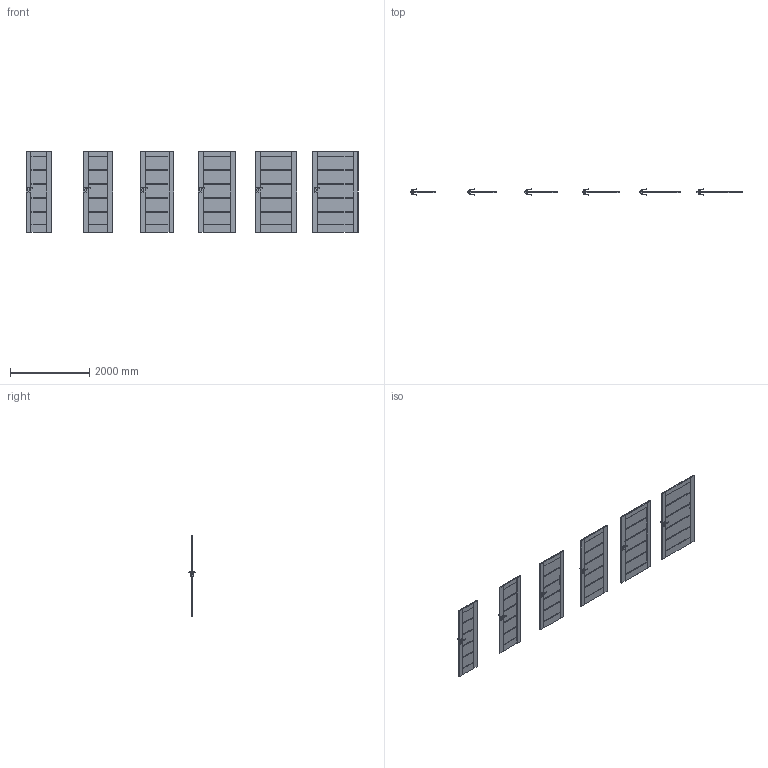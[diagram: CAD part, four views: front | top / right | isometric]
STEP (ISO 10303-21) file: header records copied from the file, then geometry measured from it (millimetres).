
FILE_DESCRIPTION(/* description */ (''),/* implementation_level */ '2;1');
FILE_NAME(/* name */ '049785_A_2-Skrzydło GRANDE model G_ polska norma _PN__ odwrotna przylga..stp',/* time_stamp */ '2024-03-21T09:40:36+01:00',/* author */ (''),/* organization */ (''),/* preprocessor_version */ 'ST-DEVELOPER v16',/* originating_system */ 'SIEMENS PLM Software NX 11.0',/* authorisation */ '');
FILE_SCHEMA (('AUTOMOTIVE_DESIGN { 1 0 10303 214 3 1 1 1 }'));
Length unit declared in the file: millimetre
Products named in the file (1): bkni4ABC3C68ovck
Bounding box: 8389 x 153.27 x 2027 mm (x, y, z)
Volume: 235964823.7 mm3; surface area: 24230727.2 mm2
Topology: 30 solids, 30 shells, 1476 faces, 3702 edges, 2166 vertices
Faces by surface type: plane 834, cylinder 282, bspline 192, sphere 168
Entity records: 49035 total; most frequent: CARTESIAN_POINT 15601, ORIENTED_EDGE 7068, DIRECTION 6494, EDGE_CURVE 3534, LINE 2424, VECTOR 2424, VERTEX_POINT 2166, AXIS2_PLACEMENT_3D 2035
